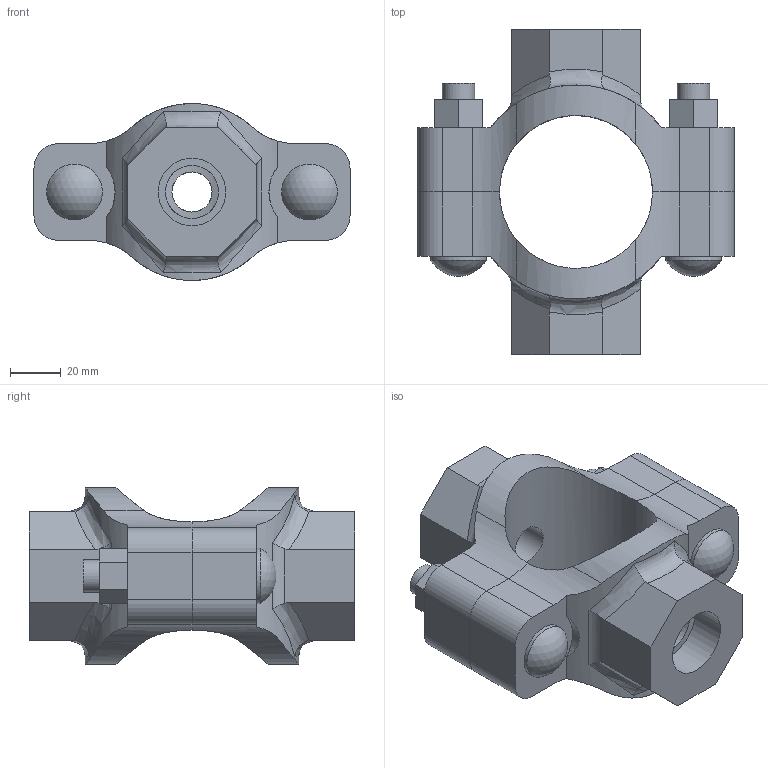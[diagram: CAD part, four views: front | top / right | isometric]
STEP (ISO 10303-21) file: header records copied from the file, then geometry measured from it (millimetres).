
FILE_DESCRIPTION(/* description */ ('VIC MECH-T BRANCH OUTLET CROSS STYLE 920N (THD)','CAx-IF Rec.Pracs.---Representation and Presentation of Product Manufacturing Information (PMI)---4.0---2014-10-13'),/* implementation_level */ '2;1');
FILE_NAME(/* name */ 'C:\Users\Vjadhav\AppData\Roaming\Autodesk\ApplicationPlugins\Back Up\Victaulic_IPS_Mechanical-Cross Outlet_Style 920N (FPT)\Victaulic_IPS_Mechanical-Cross Outlet_02.0x0.5x0.75 (50x15x20).stp',/* time_stamp */ '2020-08-06T18:55:46+05:00',/* author */ ('Vjadhav'),/* organization */ ('Victaulic'),/* preprocessor_version */ 'ST-DEVELOPER v17.2',/* originating_system */ 'Autodesk Inventor 2019',/* authorisation */ '');
FILE_SCHEMA (('AP242_MANAGED_MODEL_BASED_3D_ENGINEERING_MIM_LF { 1 0 10303 442 1 1 4 }'));
Length unit declared in the file: inch
Products named in the file (3): 920NT-02.0x0.5x0.75; 920NT-02.0x0.5; 920NT-02.0x0.75
Assembly tree (2 placements, depth 2):
  920NT-02.0x0.5x0.75
    920NT-02.0x0.5
    920NT-02.0x0.75
Bounding box: 124.71 x 128.52 x 69.83 mm (x, y, z)
Volume: 308499.1 mm3; surface area: 66103.6 mm2
Topology: 2 solids, 2 shells, 132 faces, 350 edges, 236 vertices
Faces by surface type: plane 68, cylinder 50, bspline 8, torus 4, sphere 2
Full cylindrical faces by diameter (mm): 12.7 x4, 15.799 x1, 20.93 x1, 21.336 x1, 21.982 x2, 26.67 x1
Entity records: 5030 total; most frequent: CARTESIAN_POINT 1517, ORIENTED_EDGE 700, DIRECTION 648, EDGE_CURVE 350, VERTEX_POINT 236, AXIS2_PLACEMENT_3D 231, LINE 186, VECTOR 186
